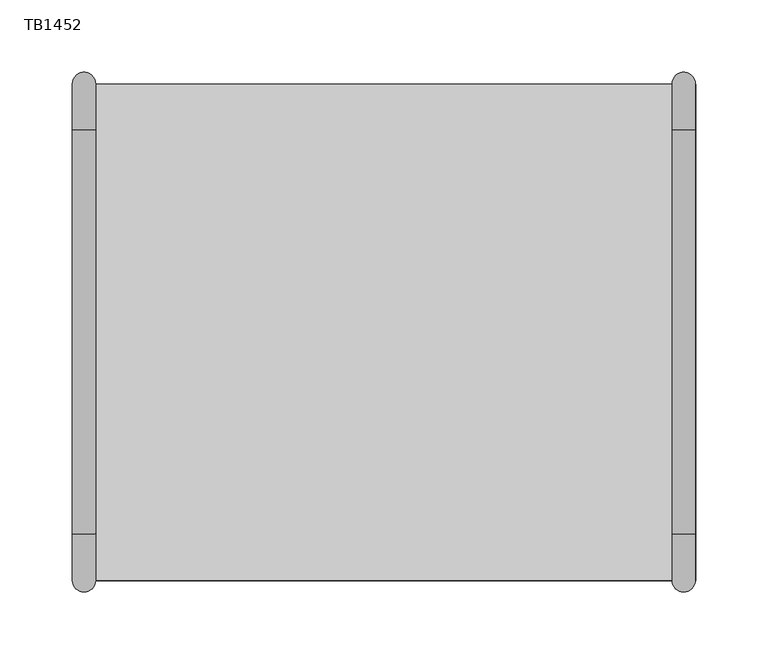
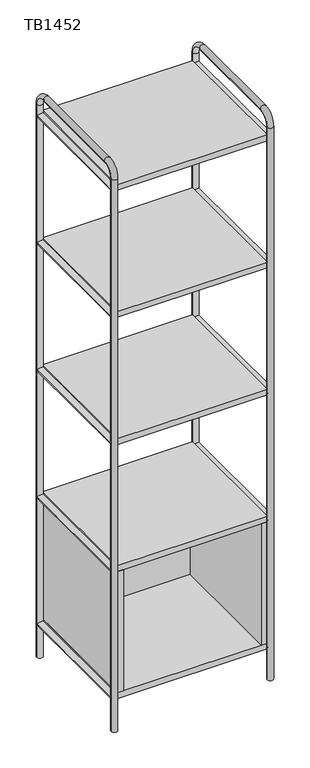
"""IFC4 building model written with IfcOpenShell, lengths in millimetres: furniture geometry, Tubbe Bookcase_4x1 : TB1452."""

from ifc_helpers import new_model, si_unit, point, frame, frame_2d, origin, place, context, project, spatial, polyline, circle_curve, ellipse_curve, trimmed, segment, composite_curve, outline, extrude, source, transform, mapped, element, save
from ifc_brep_helpers import plane_surface, cylinder_surface, revolved_surface, advanced_brep


def tb1452_b777df18(model_context):
    return source(origin(), model_context, "Body", "SolidModel", [
        extrude(outline(polyline([(183.0, 155.5), (-183.0, 155.5), (-183.0, 171.5), (183.0, 171.5), (183.0, 155.5)])), frame((0.0, 0.0, 102.0), z_axis=(0.0, 0.0, 1.0), x_axis=(1.0, 0.0, 0.0)), (0.0, 0.0, 1.0), 340.0),
        extrude(outline(polyline([(199.0, 171.5), (199.0, -171.5), (183.0, -171.5), (183.0, 171.5), (199.0, 171.5)])), frame((0.0, 0.0, 102.0), z_axis=(0.0, 0.0, 1.0), x_axis=(1.0, 0.0, 0.0)), (0.0, 0.0, 1.0), 340.0),
        extrude(outline(polyline([(-183.0, 171.5), (-183.0, -171.5), (-199.0, -171.5), (-199.0, 171.5), (-183.0, 171.5)])), frame((0.0, 0.0, 102.0), z_axis=(0.0, 0.0, 1.0), x_axis=(1.0, 0.0, 0.0)), (0.0, 0.0, 1.0), 340.0),
        advanced_brep(
        [(-215.2205547, 171.5, 0.0), (-199.2205547, 171.5, 0.0), (-215.2205547, 171.5, 1548.0), (-199.2205547, 171.5, 1548.0), (-199.2205547, 139.5, 1580.0), (-215.2205547, 139.5, 1580.0), (-215.2205547, -139.5, 1580.0), (-199.2205547, -139.5, 1580.0), (-199.2205547, -171.5, 1548.0), (-215.2205547, -171.5, 1548.0), (-215.2205547, -171.5, 0.0), (-199.2205547, -171.5, 0.0)],
        [
            (0, 1, circle_curve(frame((-207.2205547, 171.5, 0.0), z_axis=(0.0, 0.0, -1.0), x_axis=(1.0, 0.0, 0.0)), 8.0)),
            (1, 0, circle_curve(frame((-207.2205547, 171.5, 0.0), z_axis=(0.0, 0.0, -1.0), x_axis=(1.0, 0.0, 0.0)), 8.0)),
            (0, 2),
            (2, 3, circle_curve(frame((-207.2205547, 171.5, 1548.0), z_axis=(0.0, 0.0, -1.0), x_axis=(1.0, 0.0, 0.0)), 8.0)),
            (3, 1),
            (3, 2, circle_curve(frame((-207.2205547, 171.5, 1548.0), z_axis=(0.0, 0.0, -1.0), x_axis=(1.0, 0.0, 0.0)), 8.0)),
            (4, 5, circle_curve(frame((-207.2205547, 139.5, 1580.0), z_axis=(0.0, -1.0, 0.0), x_axis=(1.0, 0.0, 0.0)), 8.0)),
            (5, 6),
            (6, 7, circle_curve(frame((-207.2205547, -139.5, 1580.0), z_axis=(0.0, 1.0, 0.0), x_axis=(1.0, 0.0, 0.0)), 8.0)),
            (7, 4),
            (5, 4, circle_curve(frame((-207.2205547, 139.5, 1580.0), z_axis=(0.0, -1.0, 0.0), x_axis=(1.0, 0.0, 0.0)), 8.0)),
            (7, 6, circle_curve(frame((-207.2205547, -139.5, 1580.0), z_axis=(0.0, 1.0, 0.0), x_axis=(1.0, 0.0, 0.0)), 8.0)),
            (8, 7, circle_curve(frame((-199.2205547, -139.5, 1548.0), z_axis=(-1.0, 0.0, 0.0), x_axis=(0.0, 0.0, 1.0)), 32.0)),
            (6, 9, circle_curve(frame((-215.2205547, -139.5, 1548.0), z_axis=(1.0, 0.0, 0.0), x_axis=(0.0, 0.0, 1.0)), 32.0)),
            (9, 8, circle_curve(frame((-207.2205547, -171.5, 1548.0), z_axis=(0.0, 0.0, 1.0), x_axis=(1.0, 0.0, 0.0)), 8.0)),
            (8, 9, circle_curve(frame((-207.2205547, -171.5, 1548.0), z_axis=(0.0, 0.0, 1.0), x_axis=(1.0, 0.0, 0.0)), 8.0)),
            (10, 11, circle_curve(frame((-207.2205547, -171.5, 0.0), z_axis=(0.0, 0.0, -1.0), x_axis=(1.0, 0.0, 0.0)), 8.0)),
            (11, 10, circle_curve(frame((-207.2205547, -171.5, 0.0), z_axis=(0.0, 0.0, -1.0), x_axis=(1.0, 0.0, 0.0)), 8.0)),
            (9, 10),
            (11, 8),
            (4, 3, circle_curve(frame((-199.2205547, 139.5, 1548.0), z_axis=(-1.0, 0.0, 0.0), x_axis=(0.0, 1.0, 0.0)), 32.0)),
            (2, 5, circle_curve(frame((-215.2205547, 139.5, 1548.0), z_axis=(1.0, 0.0, 0.0), x_axis=(0.0, 1.0, 0.0)), 32.0)),
        ],
        [
            plane_surface(frame((-207.0, 171.5, 0.0), z_axis=(0.0, 0.0, -1.0), x_axis=(1.0, 0.0, 0.0))),
            cylinder_surface(frame((-207.2205547, 171.5, 0.0), z_axis=(0.0, 0.0, -1.0), x_axis=(1.0, 0.0, 0.0)), 8.0),
            cylinder_surface(frame((-207.2205547, 139.5, 1580.0), z_axis=(0.0, 1.0, 0.0), x_axis=(1.0, 0.0, 0.0)), 8.0),
            revolved_surface(trimmed(ellipse_curve(frame((-207.2205547, -139.5, 1580.0), z_axis=(0.0, 1.0, 0.0), x_axis=(1.0, 0.0, 0.0)), 8.0, 8.0), [point((-215.2205547, -139.5, 1580.0))], [point((-199.2205547, -139.5, 1580.0))], True, "CARTESIAN"), (-207.0, -139.5, 1548.0), (1.0, 0.0, 0.0)),
            revolved_surface(trimmed(ellipse_curve(frame((-207.2205547, -139.5, 1580.0), z_axis=(0.0, 1.0, 0.0), x_axis=(1.0, 0.0, 0.0)), 8.0, 8.0), [point((-199.2205547, -139.5, 1580.0))], [point((-215.2205547, -139.5, 1580.0))], True, "CARTESIAN"), (-207.0, -139.5, 1548.0), (1.0, 0.0, 0.0)),
            plane_surface(frame((-207.0, -171.5, 0.0), z_axis=(0.0, 0.0, -1.0), x_axis=(1.0, 0.0, 0.0))),
            cylinder_surface(frame((-207.2205547, -171.5, 1548.0), z_axis=(0.0, 0.0, 1.0), x_axis=(1.0, 0.0, 0.0)), 8.0),
            revolved_surface(trimmed(ellipse_curve(frame((-207.2205547, 171.5, 1548.0), z_axis=(0.0, 0.0, -1.0), x_axis=(1.0, 0.0, 0.0)), 8.0, 8.0), [point((-215.2205547, 171.5, 1548.0))], [point((-199.2205547, 171.5, 1548.0))], True, "CARTESIAN"), (-207.0, 139.5, 1548.0), (1.0, 0.0, 0.0)),
            revolved_surface(trimmed(ellipse_curve(frame((-207.2205547, 171.5, 1548.0), z_axis=(0.0, 0.0, -1.0), x_axis=(1.0, 0.0, 0.0)), 8.0, 8.0), [point((-199.2205547, 171.5, 1548.0))], [point((-215.2205547, 171.5, 1548.0))], True, "CARTESIAN"), (-207.0, 139.5, 1548.0), (1.0, 0.0, 0.0)),
        ],
        [
            (0, [[1, 2]]),
            (1, [[-1, 3, 4, 5]]),
            (1, [[-2, -5, 6, -3]]),
            (2, [[7, 8, 9, 10]]),
            (2, [[11, -10, 12, -8]]),
            (3, [[13, -9, 14, 15]]),
            (4, [[-14, -12, -13, 16]]),
            (5, [[17, 18]]),
            (6, [[-15, 19, -18, 20]]),
            (6, [[-16, -20, -17, -19]]),
            (7, [[21, -4, 22, -7]]),
            (8, [[-22, -6, -21, -11]]),
        ],
    ),
        extrude(outline(composite_curve([segment(trimmed(circle_curve(frame_2d((806.0, -207.0)), 8.0), [point((806.0, -215.0))], [point((806.0, -199.0))], False, "CARTESIAN"), True, "CONTINUOUS"), segment(trimmed(circle_curve(frame_2d((806.0, -207.0)), 8.0), [point((806.0, -199.0))], [point((806.0, -215.0))], False, "CARTESIAN"), True, "CONTINUOUS")], self_intersect=False)), frame((0.0, -171.5, 0.0), z_axis=(0.0, 1.0, 0.0), x_axis=(0.0, 0.0, 1.0)), (0.0, 0.0, 1.0), 343.0),
        extrude(outline(composite_curve([segment(trimmed(circle_curve(frame_2d((450.0, -207.0)), 8.0), [point((450.0, -215.0))], [point((450.0, -199.0))], False, "CARTESIAN"), True, "CONTINUOUS"), segment(trimmed(circle_curve(frame_2d((450.0, -207.0)), 8.0), [point((450.0, -199.0))], [point((450.0, -215.0))], False, "CARTESIAN"), True, "CONTINUOUS")], self_intersect=False)), frame((0.0, -171.5, 0.0), z_axis=(0.0, 1.0, 0.0), x_axis=(0.0, 0.0, 1.0)), (0.0, 0.0, 1.0), 343.0),
        extrude(outline(composite_curve([segment(trimmed(circle_curve(frame_2d((94.0, -207.0)), 8.0), [point((94.0, -215.0))], [point((94.0, -199.0))], False, "CARTESIAN"), True, "CONTINUOUS"), segment(trimmed(circle_curve(frame_2d((94.0, -207.0)), 8.0), [point((94.0, -199.0))], [point((94.0, -215.0))], False, "CARTESIAN"), True, "CONTINUOUS")], self_intersect=False)), frame((0.0, -171.5, 0.0), z_axis=(0.0, 1.0, 0.0), x_axis=(0.0, 0.0, 1.0)), (0.0, 0.0, 1.0), 343.0),
        extrude(outline(composite_curve([segment(trimmed(circle_curve(frame_2d((1518.0, -207.0)), 8.0), [point((1518.0, -215.0))], [point((1518.0, -199.0))], False, "CARTESIAN"), True, "CONTINUOUS"), segment(trimmed(circle_curve(frame_2d((1518.0, -207.0)), 8.0), [point((1518.0, -199.0))], [point((1518.0, -215.0))], False, "CARTESIAN"), True, "CONTINUOUS")], self_intersect=False)), frame((0.0, -171.5, 0.0), z_axis=(0.0, 1.0, 0.0), x_axis=(0.0, 0.0, 1.0)), (0.0, 0.0, 1.0), 343.0),
        extrude(outline(composite_curve([segment(trimmed(circle_curve(frame_2d((1162.0, -207.0)), 8.0), [point((1162.0, -215.0))], [point((1162.0, -199.0))], False, "CARTESIAN"), True, "CONTINUOUS"), segment(trimmed(circle_curve(frame_2d((1162.0, -207.0)), 8.0), [point((1162.0, -199.0))], [point((1162.0, -215.0))], False, "CARTESIAN"), True, "CONTINUOUS")], self_intersect=False)), frame((0.0, -171.5, 0.0), z_axis=(0.0, 1.0, 0.0), x_axis=(0.0, 0.0, 1.0)), (0.0, 0.0, 1.0), 343.0),
        extrude(outline(polyline([(199.0, 171.5), (199.0, -171.5), (-199.0, -171.5), (-199.0, 171.5), (199.0, 171.5)])), frame((0.0, 0.0, 1510.0), z_axis=(0.0, 0.0, 1.0), x_axis=(1.0, 0.0, 0.0)), (0.0, 0.0, 1.0), 16.0),
        extrude(outline(polyline([(199.0, 171.5), (199.0, -171.5), (-199.0, -171.5), (-199.0, 171.5), (199.0, 171.5)])), frame((0.0, 0.0, 1154.0), z_axis=(0.0, 0.0, 1.0), x_axis=(1.0, 0.0, 0.0)), (0.0, 0.0, 1.0), 16.0),
        extrude(outline(polyline([(199.0, 171.5), (199.0, -171.5), (-199.0, -171.5), (-199.0, 171.5), (199.0, 171.5)])), frame((0.0, 0.0, 798.0), z_axis=(0.0, 0.0, 1.0), x_axis=(1.0, 0.0, 0.0)), (0.0, 0.0, 1.0), 16.0),
        extrude(outline(polyline([(199.0, 171.5), (199.0, -171.5), (-199.0, -171.5), (-199.0, 171.5), (199.0, 171.5)])), frame((0.0, 0.0, 442.0), z_axis=(0.0, 0.0, 1.0), x_axis=(1.0, 0.0, 0.0)), (0.0, 0.0, 1.0), 16.0),
        extrude(outline(polyline([(199.0, 171.5), (199.0, -171.5), (-199.0, -171.5), (-199.0, 171.5), (199.0, 171.5)])), frame((0.0, 0.0, 86.0), z_axis=(0.0, 0.0, 1.0), x_axis=(1.0, 0.0, 0.0)), (0.0, 0.0, 1.0), 16.0),
        advanced_brep(
        [(198.7794453, 171.5, 0.0), (214.7794453, 171.5, 0.0), (198.7794453, 171.5, 1548.0), (214.7794453, 171.5, 1548.0), (214.7794453, 139.5, 1580.0), (198.7794453, 139.5, 1580.0), (198.7794453, -139.5, 1580.0), (214.7794453, -139.5, 1580.0), (214.7794453, -171.5, 1548.0), (198.7794453, -171.5, 1548.0), (198.7794453, -171.5, 0.0), (214.7794453, -171.5, 0.0)],
        [
            (0, 1, circle_curve(frame((206.7794453, 171.5, 0.0), z_axis=(0.0, 0.0, -1.0), x_axis=(1.0, 0.0, 0.0)), 8.0)),
            (1, 0, circle_curve(frame((206.7794453, 171.5, 0.0), z_axis=(0.0, 0.0, -1.0), x_axis=(1.0, 0.0, 0.0)), 8.0)),
            (0, 2),
            (2, 3, circle_curve(frame((206.7794453, 171.5, 1548.0), z_axis=(0.0, 0.0, -1.0), x_axis=(1.0, 0.0, 0.0)), 8.0)),
            (3, 1),
            (3, 2, circle_curve(frame((206.7794453, 171.5, 1548.0), z_axis=(0.0, 0.0, -1.0), x_axis=(1.0, 0.0, 0.0)), 8.0)),
            (4, 5, circle_curve(frame((206.7794453, 139.5, 1580.0), z_axis=(0.0, -1.0, 0.0), x_axis=(1.0, 0.0, 0.0)), 8.0)),
            (5, 6),
            (6, 7, circle_curve(frame((206.7794453, -139.5, 1580.0), z_axis=(0.0, 1.0, 0.0), x_axis=(1.0, 0.0, 0.0)), 8.0)),
            (7, 4),
            (5, 4, circle_curve(frame((206.7794453, 139.5, 1580.0), z_axis=(0.0, -1.0, 0.0), x_axis=(1.0, 0.0, 0.0)), 8.0)),
            (7, 6, circle_curve(frame((206.7794453, -139.5, 1580.0), z_axis=(0.0, 1.0, 0.0), x_axis=(1.0, 0.0, 0.0)), 8.0)),
            (8, 7, circle_curve(frame((214.7794453, -139.5, 1548.0), z_axis=(-1.0, 0.0, 0.0), x_axis=(0.0, 0.0, 1.0)), 32.0)),
            (6, 9, circle_curve(frame((198.7794453, -139.5, 1548.0), z_axis=(1.0, 0.0, 0.0), x_axis=(0.0, 0.0, 1.0)), 32.0)),
            (9, 8, circle_curve(frame((206.7794453, -171.5, 1548.0), z_axis=(0.0, 0.0, 1.0), x_axis=(1.0, 0.0, 0.0)), 8.0)),
            (8, 9, circle_curve(frame((206.7794453, -171.5, 1548.0), z_axis=(0.0, 0.0, 1.0), x_axis=(1.0, 0.0, 0.0)), 8.0)),
            (10, 11, circle_curve(frame((206.7794453, -171.5, 0.0), z_axis=(0.0, 0.0, -1.0), x_axis=(1.0, 0.0, 0.0)), 8.0)),
            (11, 10, circle_curve(frame((206.7794453, -171.5, 0.0), z_axis=(0.0, 0.0, -1.0), x_axis=(1.0, 0.0, 0.0)), 8.0)),
            (9, 10),
            (11, 8),
            (4, 3, circle_curve(frame((214.7794453, 139.5, 1548.0), z_axis=(-1.0, 0.0, 0.0), x_axis=(0.0, 1.0, 0.0)), 32.0)),
            (2, 5, circle_curve(frame((198.7794453, 139.5, 1548.0), z_axis=(1.0, 0.0, 0.0), x_axis=(0.0, 1.0, 0.0)), 32.0)),
        ],
        [
            plane_surface(frame((207.0, 171.5, 0.0), z_axis=(0.0, 0.0, -1.0), x_axis=(1.0, 0.0, 0.0))),
            cylinder_surface(frame((206.7794453, 171.5, 0.0), z_axis=(0.0, 0.0, -1.0), x_axis=(1.0, 0.0, 0.0)), 8.0),
            cylinder_surface(frame((206.7794453, 139.5, 1580.0), z_axis=(0.0, 1.0, 0.0), x_axis=(1.0, 0.0, 0.0)), 8.0),
            revolved_surface(trimmed(ellipse_curve(frame((206.7794453, -139.5, 1580.0), z_axis=(0.0, 1.0, 0.0), x_axis=(1.0, 0.0, 0.0)), 8.0, 8.0), [point((198.7794453, -139.5, 1580.0))], [point((214.7794453, -139.5, 1580.0))], True, "CARTESIAN"), (207.0, -139.5, 1548.0), (1.0, 0.0, 0.0)),
            revolved_surface(trimmed(ellipse_curve(frame((206.7794453, -139.5, 1580.0), z_axis=(0.0, 1.0, 0.0), x_axis=(1.0, 0.0, 0.0)), 8.0, 8.0), [point((214.7794453, -139.5, 1580.0))], [point((198.7794453, -139.5, 1580.0))], True, "CARTESIAN"), (207.0, -139.5, 1548.0), (1.0, 0.0, 0.0)),
            plane_surface(frame((207.0, -171.5, 0.0), z_axis=(0.0, 0.0, -1.0), x_axis=(1.0, 0.0, 0.0))),
            cylinder_surface(frame((206.7794453, -171.5, 1548.0), z_axis=(0.0, 0.0, 1.0), x_axis=(1.0, 0.0, 0.0)), 8.0),
            revolved_surface(trimmed(ellipse_curve(frame((206.7794453, 171.5, 1548.0), z_axis=(0.0, 0.0, -1.0), x_axis=(1.0, 0.0, 0.0)), 8.0, 8.0), [point((198.7794453, 171.5, 1548.0))], [point((214.7794453, 171.5, 1548.0))], True, "CARTESIAN"), (207.0, 139.5, 1548.0), (1.0, 0.0, 0.0)),
            revolved_surface(trimmed(ellipse_curve(frame((206.7794453, 171.5, 1548.0), z_axis=(0.0, 0.0, -1.0), x_axis=(1.0, 0.0, 0.0)), 8.0, 8.0), [point((214.7794453, 171.5, 1548.0))], [point((198.7794453, 171.5, 1548.0))], True, "CARTESIAN"), (207.0, 139.5, 1548.0), (1.0, 0.0, 0.0)),
        ],
        [
            (0, [[1, 2]]),
            (1, [[-1, 3, 4, 5]]),
            (1, [[-2, -5, 6, -3]]),
            (2, [[7, 8, 9, 10]]),
            (2, [[11, -10, 12, -8]]),
            (3, [[13, -9, 14, 15]]),
            (4, [[-14, -12, -13, 16]]),
            (5, [[17, 18]]),
            (6, [[-15, 19, -18, 20]]),
            (6, [[-16, -20, -17, -19]]),
            (7, [[21, -4, 22, -7]]),
            (8, [[-22, -6, -21, -11]]),
        ],
    ),
        extrude(outline(composite_curve([segment(trimmed(circle_curve(frame_2d((806.0, 207.0)), 8.0), [point((806.0, 199.0))], [point((806.0, 215.0))], False, "CARTESIAN"), True, "CONTINUOUS"), segment(trimmed(circle_curve(frame_2d((806.0, 207.0)), 8.0), [point((806.0, 215.0))], [point((806.0, 199.0))], False, "CARTESIAN"), True, "CONTINUOUS")], self_intersect=False)), frame((0.0, -171.5, 0.0), z_axis=(0.0, 1.0, 0.0), x_axis=(0.0, 0.0, 1.0)), (0.0, 0.0, 1.0), 343.0),
        extrude(outline(composite_curve([segment(trimmed(circle_curve(frame_2d((450.0, 207.0)), 8.0), [point((450.0, 199.0))], [point((450.0, 215.0))], False, "CARTESIAN"), True, "CONTINUOUS"), segment(trimmed(circle_curve(frame_2d((450.0, 207.0)), 8.0), [point((450.0, 215.0))], [point((450.0, 199.0))], False, "CARTESIAN"), True, "CONTINUOUS")], self_intersect=False)), frame((0.0, -171.5, 0.0), z_axis=(0.0, 1.0, 0.0), x_axis=(0.0, 0.0, 1.0)), (0.0, 0.0, 1.0), 343.0),
        extrude(outline(composite_curve([segment(trimmed(circle_curve(frame_2d((94.0, 207.0)), 8.0), [point((94.0, 199.0))], [point((94.0, 215.0))], False, "CARTESIAN"), True, "CONTINUOUS"), segment(trimmed(circle_curve(frame_2d((94.0, 207.0)), 8.0), [point((94.0, 215.0))], [point((94.0, 199.0))], False, "CARTESIAN"), True, "CONTINUOUS")], self_intersect=False)), frame((0.0, -171.5, 0.0), z_axis=(0.0, 1.0, 0.0), x_axis=(0.0, 0.0, 1.0)), (0.0, 0.0, 1.0), 343.0),
        extrude(outline(composite_curve([segment(trimmed(circle_curve(frame_2d((1518.0, 207.0)), 8.0), [point((1518.0, 199.0))], [point((1518.0, 215.0))], False, "CARTESIAN"), True, "CONTINUOUS"), segment(trimmed(circle_curve(frame_2d((1518.0, 207.0)), 8.0), [point((1518.0, 215.0))], [point((1518.0, 199.0))], False, "CARTESIAN"), True, "CONTINUOUS")], self_intersect=False)), frame((0.0, -171.5, 0.0), z_axis=(0.0, 1.0, 0.0), x_axis=(0.0, 0.0, 1.0)), (0.0, 0.0, 1.0), 343.0),
        extrude(outline(composite_curve([segment(trimmed(circle_curve(frame_2d((1162.0, 207.0)), 8.0), [point((1162.0, 199.0))], [point((1162.0, 215.0))], False, "CARTESIAN"), True, "CONTINUOUS"), segment(trimmed(circle_curve(frame_2d((1162.0, 207.0)), 8.0), [point((1162.0, 215.0))], [point((1162.0, 199.0))], False, "CARTESIAN"), True, "CONTINUOUS")], self_intersect=False)), frame((0.0, -171.5, 0.0), z_axis=(0.0, 1.0, 0.0), x_axis=(0.0, 0.0, 1.0)), (0.0, 0.0, 1.0), 343.0),
    ])


if __name__ == "__main__":
    model = new_model("IFC4")
    model_context = context("Model", 3, world=origin())
    ifc_project = project(units=[si_unit("LENGTHUNIT", "METRE", prefix="MILLI")], contexts=[model_context])
    site = spatial("IfcSite", under=ifc_project)
    building = spatial("IfcBuilding", under=site)
    placement = place(None, origin())
    tb1452_shape = tb1452_b777df18(model_context)
    element("IfcFurniture", 1, ObjectType="Tubbe Bookcase_4x1 : TB1452", at=placement, inside=building, context=model_context, shape_type="MappedRepresentation", body=[
        mapped(tb1452_shape, transform((0.0, 0.0, 0.0), x_axis=(1.0, 0.0, 0.0), y_axis=(0.0, 1.0, 0.0), z_axis=(0.0, 0.0, 1.0))),
    ])
    save(model, "model.ifc")
